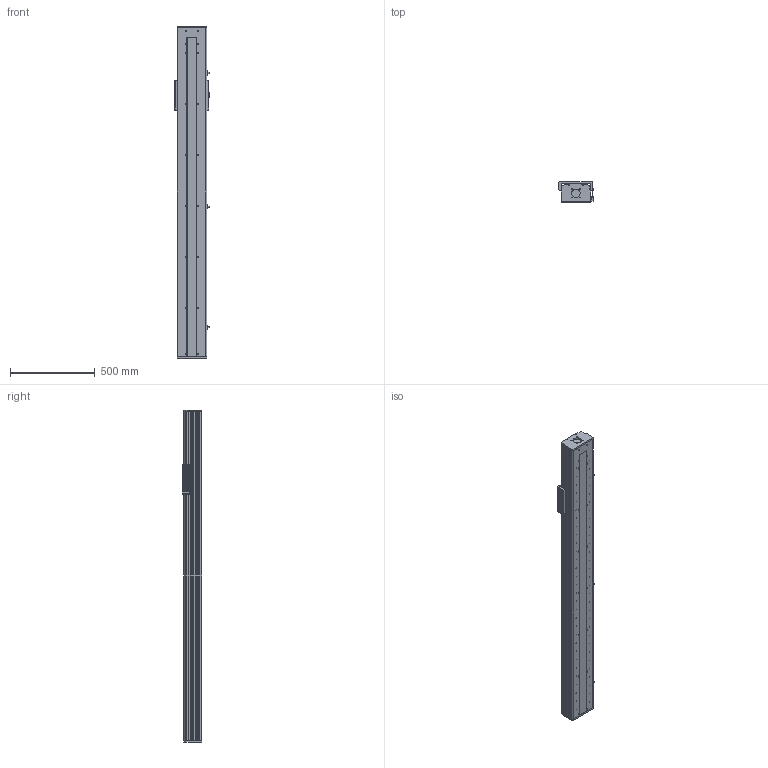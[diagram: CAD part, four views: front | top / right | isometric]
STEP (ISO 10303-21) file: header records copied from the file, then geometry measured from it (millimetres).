
FILE_DESCRIPTION (( 'STEP AP203' ), '1' );
FILE_NAME ('CF175B-C-1600-FW.STEP', '2020-07-15T02:00:15', ( 'Micorosoft' ), ( 'Micorosoft' ), 'SwSTEP 2.0', 'SolidWorks 2016', '' );
FILE_SCHEMA (( 'CONFIG_CONTROL_DESIGN' ));
Length unit declared in the file: millimetre
Products named in the file (12): 175B裔啣-1600; 175B臏倰第-1600; EGR20絳寢-1600; CF175-2賑雄啣; 75-86-95癹弇羲壽覜茼え; CF-EGH20CA賑輸; 175-2耜啣; 175B珨极嘐隅釱; 175-2盓傅釱; 嫖萇羲壽; CF175-2蹟譫釱; CF175B-C-1600-FW
Assembly tree (17 placements, depth 2):
  CF175B-C-1600-FW
    175-2耜啣
    175-2盓傅釱
    CF175-2蹟譫釱
    175B裔啣-1600
    175B臏倰第-1600
    EGR20絳寢-1600  x2
    CF175-2賑雄啣
    75-86-95癹弇羲壽覜茼え
    CF-EGH20CA賑輸  x4
    175B珨极嘐隅釱
    嫖萇羲壽  x3
Bounding box: 201.1 x 116.8 x 1955 mm (x, y, z)
Volume: 13267041.5 mm3; surface area: 3643263.7 mm2
Topology: 23 solids, 23 shells, 1678 faces, 4287 edges, 2848 vertices
Faces by surface type: cylinder 871, plane 801, cone 4, bspline 2
Entity records: 39733 total; most frequent: DIRECTION 6984, CARTESIAN_POINT 6680, ORIENTED_EDGE 6274, EDGE_CURVE 3137, AXIS2_PLACEMENT_3D 2628, VERTEX_POINT 2084, LINE 1728, VECTOR 1728
